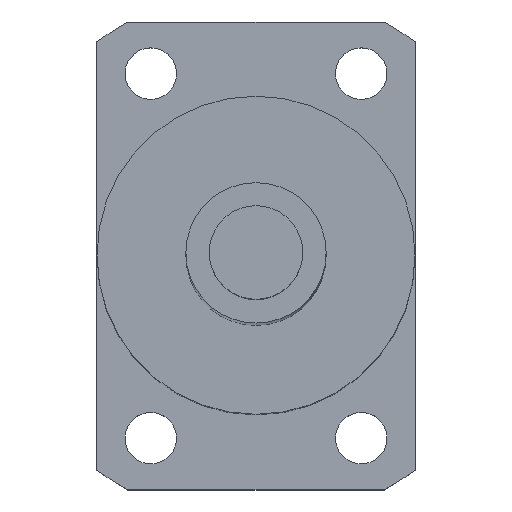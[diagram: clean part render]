
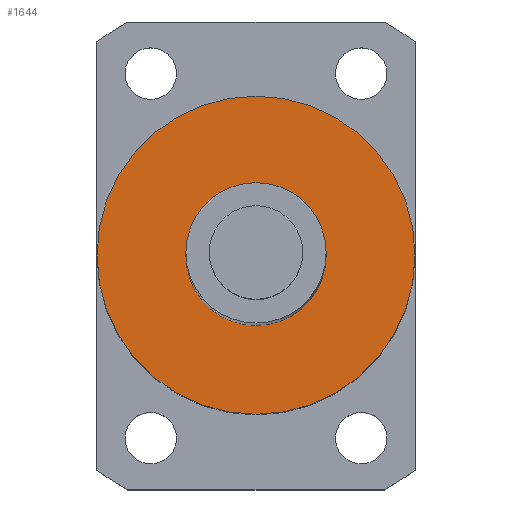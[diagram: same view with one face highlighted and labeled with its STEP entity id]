
A CAD part, top view. The second image highlights one B-rep face of the part: STEP entity #1644.
In plain terms, the highlighted planar face has unit normal (0, 0, 1).
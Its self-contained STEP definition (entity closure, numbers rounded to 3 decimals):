
#512=CARTESIAN_POINT('',(0.,0.,257.5));
#513=DIRECTION('',(0.,0.,1.));
#514=DIRECTION('',(1.,0.,0.));
#515=AXIS2_PLACEMENT_3D('',#512,#513,#514);
#517=CARTESIAN_POINT('',(0.,0.,257.5));
#518=DIRECTION('',(0.,0.,1.));
#519=DIRECTION('',(-1.,0.,0.));
#520=AXIS2_PLACEMENT_3D('',#517,#518,#519);
#522=CARTESIAN_POINT('',(0.,0.,257.5));
#523=DIRECTION('',(0.,0.,1.));
#524=DIRECTION('',(1.,0.,0.));
#525=AXIS2_PLACEMENT_3D('',#522,#523,#524);
#527=CARTESIAN_POINT('',(0.,0.,257.5));
#528=DIRECTION('',(0.,0.,1.));
#529=DIRECTION('',(-1.,0.,0.));
#530=AXIS2_PLACEMENT_3D('',#527,#528,#529);
#757=CARTESIAN_POINT('',(17.,0.,257.5));
#758=CARTESIAN_POINT('',(-17.,0.,257.5));
#759=VERTEX_POINT('',#757);
#760=VERTEX_POINT('',#758);
#769=CARTESIAN_POINT('',(7.5,0.,257.5));
#770=CARTESIAN_POINT('',(-7.5,0.,257.5));
#771=VERTEX_POINT('',#769);
#772=VERTEX_POINT('',#770);
#1629=CARTESIAN_POINT('',(0.,0.,257.5));
#1630=DIRECTION('',(0.,0.,1.));
#1631=DIRECTION('',(1.,0.,0.));
#1632=AXIS2_PLACEMENT_3D('',#1629,#1630,#1631);
#1633=PLANE('',#1632);
#1634=ORIENTED_EDGE('',*,*,#1609,.F.);
#1635=ORIENTED_EDGE('',*,*,#1623,.F.);
#1636=EDGE_LOOP('',(#1634,#1635));
#1637=FACE_OUTER_BOUND('',#1636,.F.);
#1639=ORIENTED_EDGE('',*,*,#1638,.T.);
#1641=ORIENTED_EDGE('',*,*,#1640,.T.);
#1642=EDGE_LOOP('',(#1639,#1641));
#1643=FACE_BOUND('',#1642,.F.);
#1644=ADVANCED_FACE('',(#1637,#1643),#1633,.T.);
#516=CIRCLE('',#515,17.);
#521=CIRCLE('',#520,17.);
#526=CIRCLE('',#525,7.5);
#531=CIRCLE('',#530,7.5);
#1609=EDGE_CURVE('',#759,#760,#516,.T.);
#1623=EDGE_CURVE('',#760,#759,#521,.T.);
#1638=EDGE_CURVE('',#771,#772,#526,.T.);
#1640=EDGE_CURVE('',#772,#771,#531,.T.);
